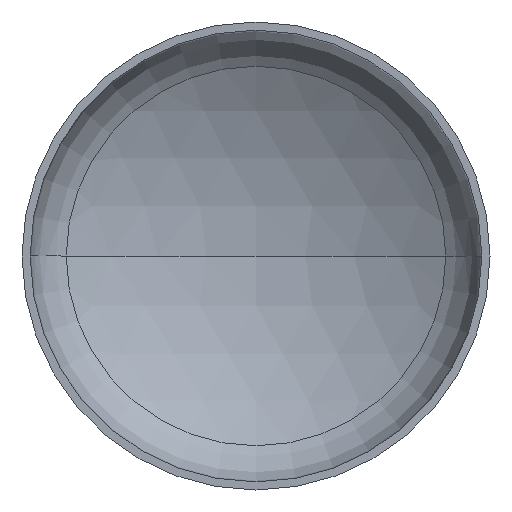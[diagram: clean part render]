
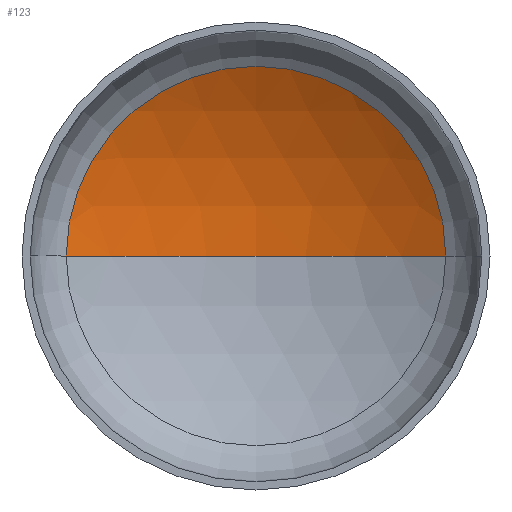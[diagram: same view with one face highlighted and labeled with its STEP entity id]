
A CAD part, front view. The second image highlights one B-rep face of the part: STEP entity #123.
In plain terms, the highlighted spherical face has radius 640 mm.
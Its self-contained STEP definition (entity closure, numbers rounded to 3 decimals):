
#4 = ORIENTED_EDGE ( 'NONE', *, *, #300, .F. ) ;
#8 = AXIS2_PLACEMENT_3D ( 'NONE', #97, #92, #94 ) ;
#9 = AXIS2_PLACEMENT_3D ( 'NONE', #116, #68, #75 ) ;
#19 = AXIS2_PLACEMENT_3D ( 'NONE', #117, #411, #221 ) ;
#65 = ORIENTED_EDGE ( 'NONE', *, *, #298, .T. ) ;
#68 = DIRECTION ( 'NONE',  ( 0., 0., -1. ) ) ;
#75 = DIRECTION ( 'NONE',  ( -1., 0., 0. ) ) ;
#84 = AXIS2_PLACEMENT_3D ( 'NONE', #152, #219, #367 ) ;
#92 = DIRECTION ( 'NONE',  ( 0., 0., 1. ) ) ;
#94 = DIRECTION ( 'NONE',  ( 1., 0., 0. ) ) ;
#97 = CARTESIAN_POINT ( 'NONE',  ( 0., -398.964, 0. ) ) ;
#116 = CARTESIAN_POINT ( 'NONE',  ( 0., -398.964, 0. ) ) ;
#117 = CARTESIAN_POINT ( 'NONE',  ( 0., -398.964, 0. ) ) ;
#123 = ADVANCED_FACE ( 'NONE', ( #307 ), #390, .F. ) ;
#127 = CIRCLE ( 'NONE', #9, 640. ) ;
#131 = EDGE_LOOP ( 'NONE', ( #4, #65, #237 ) ) ;
#136 = VERTEX_POINT ( 'NONE', #160 ) ;
#140 = VERTEX_POINT ( 'NONE', #370 ) ;
#152 = CARTESIAN_POINT ( 'NONE',  ( 0., 152.758, 0. ) ) ;
#160 = CARTESIAN_POINT ( 'NONE',  ( -324.35, 152.758, 0. ) ) ;
#192 = CARTESIAN_POINT ( 'NONE',  ( 324.35, 152.758, 0. ) ) ;
#219 = DIRECTION ( 'NONE',  ( 0., -1., 0. ) ) ;
#221 = DIRECTION ( 'NONE',  ( -1., 0., 0. ) ) ;
#237 = ORIENTED_EDGE ( 'NONE', *, *, #321, .T. ) ;
#279 = CIRCLE ( 'NONE', #84, 324.35 ) ;
#295 = CIRCLE ( 'NONE', #8, 640. ) ;
#298 = EDGE_CURVE ( 'NONE', #140, #403, #127, .T. ) ;
#300 = EDGE_CURVE ( 'NONE', #140, #136, #295, .T. ) ;
#307 = FACE_OUTER_BOUND ( 'NONE', #131, .T. ) ;
#321 = EDGE_CURVE ( 'NONE', #403, #136, #279, .T. ) ;
#367 = DIRECTION ( 'NONE',  ( 1., 0., 0. ) ) ;
#370 = CARTESIAN_POINT ( 'NONE',  ( 0., 241.036, 0. ) ) ;
#390 = SPHERICAL_SURFACE ( 'NONE', #19, 640. ) ;
#403 = VERTEX_POINT ( 'NONE', #192 ) ;
#411 = DIRECTION ( 'NONE',  ( 0., 0., -1. ) ) ;
